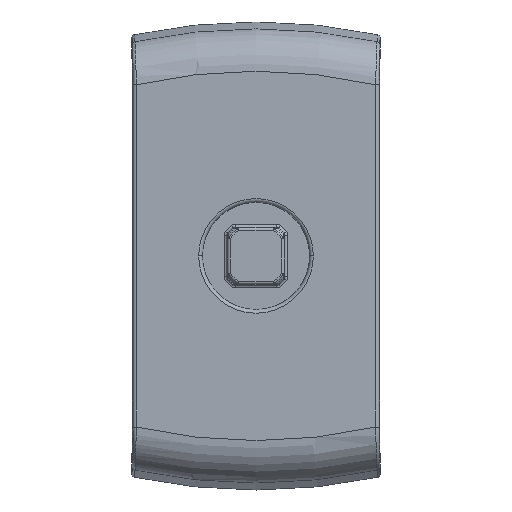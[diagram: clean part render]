
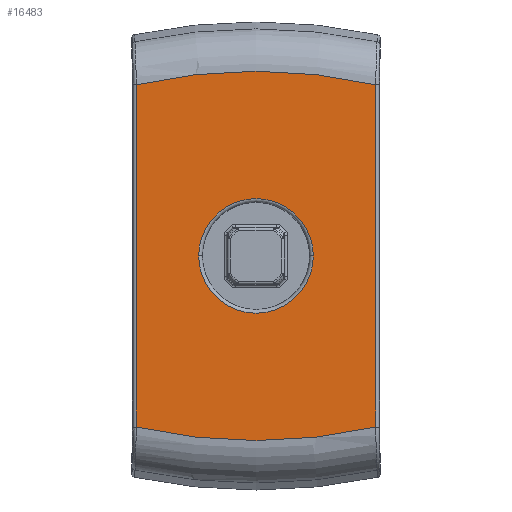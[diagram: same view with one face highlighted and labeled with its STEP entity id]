
A CAD part, top view. The second image highlights one B-rep face of the part: STEP entity #16483.
In plain terms, the highlighted planar face has unit normal (0, 0, 1).
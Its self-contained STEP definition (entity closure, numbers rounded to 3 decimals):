
#875 = CARTESIAN_POINT ( 'NONE',  ( 0., 0., 8. ) ) ;
#1933 = LINE ( 'NONE', #22389, #3950 ) ;
#3768 = DIRECTION ( 'NONE',  ( 0., 0., 1. ) ) ;
#3950 = VECTOR ( 'NONE', #36536, 1000. ) ;
#3998 = EDGE_CURVE ( 'NONE', #13006, #15486, #11279, .T. ) ;
#4273 = CIRCLE ( 'NONE', #28011, 73.252 ) ;
#5085 = ORIENTED_EDGE ( 'NONE', *, *, #17831, .T. ) ;
#6927 = VERTEX_POINT ( 'NONE', #6986 ) ;
#6986 = CARTESIAN_POINT ( 'NONE',  ( -7.84, 0., 8. ) ) ;
#7029 = VECTOR ( 'NONE', #39845, 1000. ) ;
#7464 = CARTESIAN_POINT ( 'NONE',  ( -16.369, 23.4, 8. ) ) ;
#7640 = DIRECTION ( 'NONE',  ( 1., 0., 0. ) ) ;
#8061 = DIRECTION ( 'NONE',  ( 1., 0., 0. ) ) ;
#9236 = FACE_BOUND ( 'NONE', #31509, .T. ) ;
#9388 = CARTESIAN_POINT ( 'NONE',  ( 0., -48., 8. ) ) ;
#9707 = ORIENTED_EDGE ( 'NONE', *, *, #25218, .T. ) ;
#11279 = LINE ( 'NONE', #15219, #7029 ) ;
#11353 = VERTEX_POINT ( 'NONE', #17835 ) ;
#13006 = VERTEX_POINT ( 'NONE', #7464 ) ;
#13526 = AXIS2_PLACEMENT_3D ( 'NONE', #30144, #37138, #23443 ) ;
#14737 = AXIS2_PLACEMENT_3D ( 'NONE', #875, #43116, #8061 ) ;
#14899 = ORIENTED_EDGE ( 'NONE', *, *, #27414, .T. ) ;
#15219 = CARTESIAN_POINT ( 'NONE',  ( -16.369, -23.286, 8. ) ) ;
#15486 = VERTEX_POINT ( 'NONE', #38560 ) ;
#16379 = DIRECTION ( 'NONE',  ( 1., 0., 0. ) ) ;
#16483 = ADVANCED_FACE ( 'NONE', ( #9236, #41524 ), #22970, .T. ) ;
#16759 = AXIS2_PLACEMENT_3D ( 'NONE', #24605, #45708, #7640 ) ;
#17831 = EDGE_CURVE ( 'NONE', #25017, #43314, #1933, .T. ) ;
#17835 = CARTESIAN_POINT ( 'NONE',  ( 7.84, 0., 8. ) ) ;
#17931 = DIRECTION ( 'NONE',  ( 1., 0., 0. ) ) ;
#21718 = ORIENTED_EDGE ( 'NONE', *, *, #45902, .T. ) ;
#22389 = CARTESIAN_POINT ( 'NONE',  ( 16.369, 23.286, 8. ) ) ;
#22970 = PLANE ( 'NONE',  #13526 ) ;
#23178 = CARTESIAN_POINT ( 'NONE',  ( 0., 48., 8. ) ) ;
#23443 = DIRECTION ( 'NONE',  ( 1., 0., 0. ) ) ;
#23810 = EDGE_CURVE ( 'NONE', #6927, #11353, #37537, .T. ) ;
#24605 = CARTESIAN_POINT ( 'NONE',  ( 0., 0., 8. ) ) ;
#25017 = VERTEX_POINT ( 'NONE', #42308 ) ;
#25218 = EDGE_CURVE ( 'NONE', #15486, #25017, #43504, .T. ) ;
#27414 = EDGE_CURVE ( 'NONE', #11353, #6927, #34777, .T. ) ;
#28011 = AXIS2_PLACEMENT_3D ( 'NONE', #9388, #33554, #16379 ) ;
#30144 = CARTESIAN_POINT ( 'NONE',  ( 0., -48., 8. ) ) ;
#31509 = EDGE_LOOP ( 'NONE', ( #14899, #38253 ) ) ;
#33554 = DIRECTION ( 'NONE',  ( 0., 0., 1. ) ) ;
#34479 = CARTESIAN_POINT ( 'NONE',  ( 16.369, 23.4, 8. ) ) ;
#34777 = CIRCLE ( 'NONE', #14737, 7.84 ) ;
#35405 = AXIS2_PLACEMENT_3D ( 'NONE', #23178, #3768, #17931 ) ;
#35834 = EDGE_LOOP ( 'NONE', ( #21718, #35897, #9707, #5085 ) ) ;
#35897 = ORIENTED_EDGE ( 'NONE', *, *, #3998, .T. ) ;
#36536 = DIRECTION ( 'NONE',  ( 0., 1., 0. ) ) ;
#37138 = DIRECTION ( 'NONE',  ( 0., 0., 1. ) ) ;
#37537 = CIRCLE ( 'NONE', #16759, 7.84 ) ;
#38253 = ORIENTED_EDGE ( 'NONE', *, *, #23810, .T. ) ;
#38560 = CARTESIAN_POINT ( 'NONE',  ( -16.369, -23.4, 8. ) ) ;
#39845 = DIRECTION ( 'NONE',  ( 0., -1., 0. ) ) ;
#41524 = FACE_OUTER_BOUND ( 'NONE', #35834, .T. ) ;
#42308 = CARTESIAN_POINT ( 'NONE',  ( 16.369, -23.4, 8. ) ) ;
#43116 = DIRECTION ( 'NONE',  ( 0., 0., -1. ) ) ;
#43314 = VERTEX_POINT ( 'NONE', #34479 ) ;
#43504 = CIRCLE ( 'NONE', #35405, 73.252 ) ;
#45708 = DIRECTION ( 'NONE',  ( 0., 0., -1. ) ) ;
#45902 = EDGE_CURVE ( 'NONE', #43314, #13006, #4273, .T. ) ;
